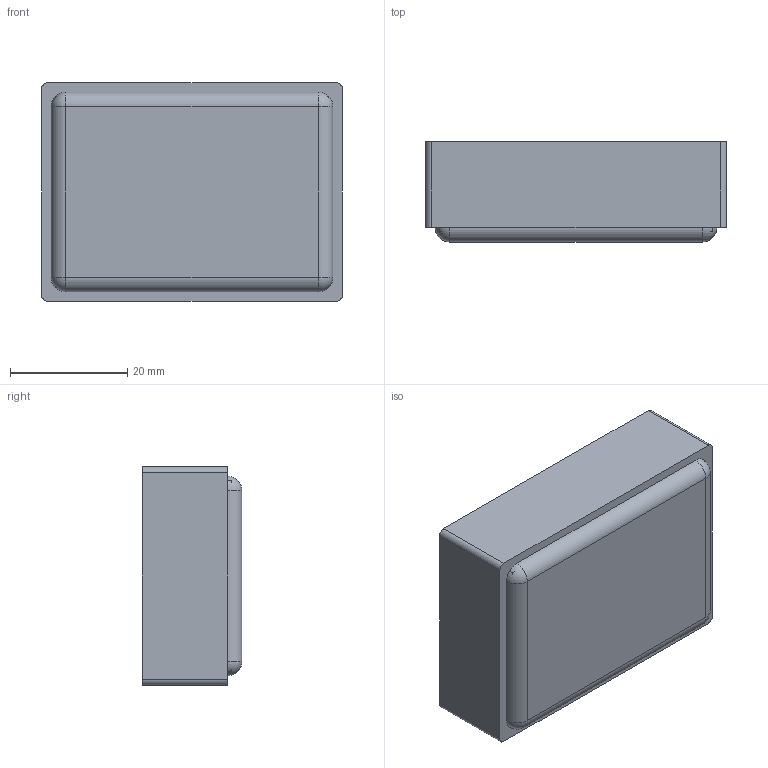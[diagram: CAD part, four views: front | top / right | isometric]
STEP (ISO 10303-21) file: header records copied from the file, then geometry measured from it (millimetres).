
FILE_DESCRIPTION (( 'STEP AP214' ), '1' );
FILE_NAME ('Cuerpo PP40.STEP', '2016-09-08T14:54:48', ( 'aaa' ), ( '' ), 'SwSTEP 2.0', 'SolidWorks 2013', '' );
FILE_SCHEMA (( 'AUTOMOTIVE_DESIGN' ));
Length unit declared in the file: millimetre
Products named in the file (1): Cuerpo PP40
Bounding box: 51.2 x 17 x 37.15 mm (x, y, z)
Volume: 8539.7 mm3; surface area: 9291.3 mm2
Topology: 1 solids, 1 shells, 52 faces, 132 edges, 84 vertices
Faces by surface type: plane 32, cylinder 16, sphere 4
Entity records: 1578 total; most frequent: DIRECTION 278, CARTESIAN_POINT 265, ORIENTED_EDGE 256, EDGE_CURVE 128, AXIS2_PLACEMENT_3D 97, LINE 84, VERTEX_POINT 84, VECTOR 84
